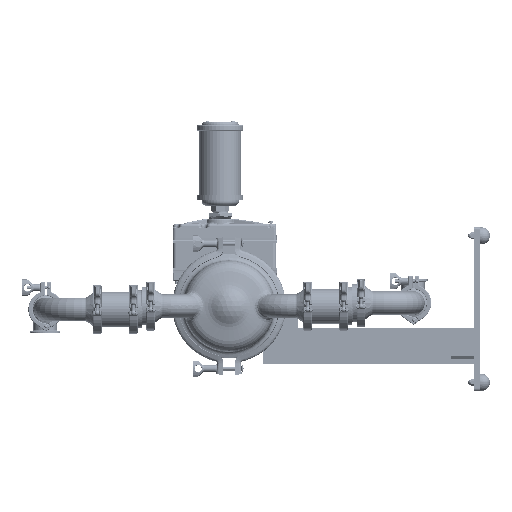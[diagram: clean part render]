
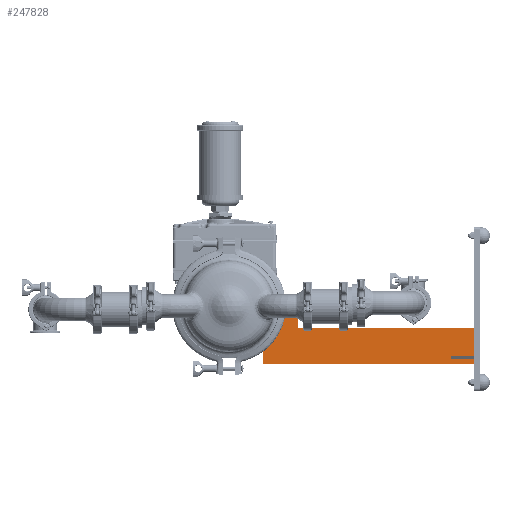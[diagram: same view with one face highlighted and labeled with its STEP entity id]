
A CAD part, left-side view. The second image highlights one B-rep face of the part: STEP entity #247828.
In plain terms, the highlighted planar face has unit normal (-1, 0, 0).
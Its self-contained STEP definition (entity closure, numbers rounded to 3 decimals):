
#9053 = CARTESIAN_POINT ( 'NONE',  ( -1., -20.882, -4.288 ) ) ;
#10409 = ORIENTED_EDGE ( 'NONE', *, *, #404965, .F. ) ;
#12327 = VECTOR ( 'NONE', #19130, 39.37 ) ;
#18326 = VERTEX_POINT ( 'NONE', #602863 ) ;
#19130 = DIRECTION ( 'NONE',  ( 0., 1., 0. ) ) ;
#22271 = VECTOR ( 'NONE', #542634, 39.37 ) ;
#22428 = CARTESIAN_POINT ( 'NONE',  ( -1., -4.21, -2.458 ) ) ;
#32283 = ORIENTED_EDGE ( 'NONE', *, *, #483531, .T. ) ;
#33257 = CARTESIAN_POINT ( 'NONE',  ( -1., -4.21, -1.928 ) ) ;
#35316 = CARTESIAN_POINT ( 'NONE',  ( -1., -20.882, -1.898 ) ) ;
#35793 = DIRECTION ( 'NONE',  ( 0., -1., 0. ) ) ;
#37232 = CARTESIAN_POINT ( 'NONE',  ( -1., -2.88, 1.027 ) ) ;
#40219 = LINE ( 'NONE', #243907, #435296 ) ;
#50904 = ORIENTED_EDGE ( 'NONE', *, *, #626756, .T. ) ;
#53101 = VECTOR ( 'NONE', #296977, 39.37 ) ;
#62037 = VERTEX_POINT ( 'NONE', #564912 ) ;
#76822 = CARTESIAN_POINT ( 'NONE',  ( -1., -2.88, 1.027 ) ) ;
#80519 = ORIENTED_EDGE ( 'NONE', *, *, #312871, .T. ) ;
#81845 = VECTOR ( 'NONE', #440585, 39.37 ) ;
#96530 = LINE ( 'NONE', #203315, #53101 ) ;
#100318 = EDGE_CURVE ( 'NONE', #129086, #387854, #507337, .T. ) ;
#104407 = VECTOR ( 'NONE', #35793, 39.37 ) ;
#109233 = LINE ( 'NONE', #9053, #374990 ) ;
#122228 = VERTEX_POINT ( 'NONE', #239715 ) ;
#129086 = VERTEX_POINT ( 'NONE', #455096 ) ;
#142223 = LINE ( 'NONE', #502745, #312269 ) ;
#144198 = FACE_OUTER_BOUND ( 'NONE', #481453, .T. ) ;
#147915 = EDGE_CURVE ( 'NONE', #552705, #378228, #109233, .T. ) ;
#155859 = CARTESIAN_POINT ( 'NONE',  ( -1., -4.16, -1.928 ) ) ;
#157000 = VERTEX_POINT ( 'NONE', #307319 ) ;
#171270 = CARTESIAN_POINT ( 'NONE',  ( -1., -4.16, -1.928 ) ) ;
#175482 = EDGE_CURVE ( 'NONE', #181940, #62037, #639561, .T. ) ;
#180468 = CARTESIAN_POINT ( 'NONE',  ( -1., -5.88, -1.898 ) ) ;
#181940 = VERTEX_POINT ( 'NONE', #621578 ) ;
#186609 = VECTOR ( 'NONE', #190319, 39.37 ) ;
#187699 = DIRECTION ( 'NONE',  ( -1., 0., 0. ) ) ;
#188387 = ORIENTED_EDGE ( 'NONE', *, *, #321898, .F. ) ;
#190319 = DIRECTION ( 'NONE',  ( 0., -1., 0. ) ) ;
#192014 = CARTESIAN_POINT ( 'NONE',  ( -1., -20.882, -4.538 ) ) ;
#198264 = VERTEX_POINT ( 'NONE', #171270 ) ;
#203315 = CARTESIAN_POINT ( 'NONE',  ( -1., -20.882, -4.898 ) ) ;
#213039 = CARTESIAN_POINT ( 'NONE',  ( -1., -4.21, -2.458 ) ) ;
#222202 = ORIENTED_EDGE ( 'NONE', *, *, #552453, .F. ) ;
#223657 = ORIENTED_EDGE ( 'NONE', *, *, #100318, .F. ) ;
#232184 = VECTOR ( 'NONE', #403857, 39.37 ) ;
#233653 = LINE ( 'NONE', #33257, #306635 ) ;
#236944 = LINE ( 'NONE', #76822, #81845 ) ;
#239715 = CARTESIAN_POINT ( 'NONE',  ( -1., -5.88, -1.898 ) ) ;
#243907 = CARTESIAN_POINT ( 'NONE',  ( -1., -18.882, -4.288 ) ) ;
#247817 = VERTEX_POINT ( 'NONE', #448015 ) ;
#247828 = ADVANCED_FACE ( 'NONE', ( #144198 ), #441433, .T. ) ;
#255264 = VECTOR ( 'NONE', #614222, 39.37 ) ;
#262632 = LINE ( 'NONE', #155859, #487699 ) ;
#265865 = ORIENTED_EDGE ( 'NONE', *, *, #175482, .F. ) ;
#278696 = VERTEX_POINT ( 'NONE', #37232 ) ;
#282492 = AXIS2_PLACEMENT_3D ( 'NONE', #548192, #187699, #551468 ) ;
#292906 = LINE ( 'NONE', #483396, #104407 ) ;
#295515 = DIRECTION ( 'NONE',  ( 0., 0., -1. ) ) ;
#296977 = DIRECTION ( 'NONE',  ( 0., 1., 0. ) ) ;
#306635 = VECTOR ( 'NONE', #387234, 39.37 ) ;
#307319 = CARTESIAN_POINT ( 'NONE',  ( -1., -18.882, -4.538 ) ) ;
#309497 = DIRECTION ( 'NONE',  ( 0., -1., 0. ) ) ;
#311345 = EDGE_CURVE ( 'NONE', #378228, #157000, #40219, .T. ) ;
#312269 = VECTOR ( 'NONE', #352488, 39.37 ) ;
#312871 = EDGE_CURVE ( 'NONE', #18326, #457521, #233653, .T. ) ;
#313617 = CARTESIAN_POINT ( 'NONE',  ( -1., -2.88, -4.898 ) ) ;
#321898 = EDGE_CURVE ( 'NONE', #643716, #552705, #338992, .T. ) ;
#338992 = LINE ( 'NONE', #549195, #354192 ) ;
#351431 = EDGE_CURVE ( 'NONE', #457521, #387854, #469947, .T. ) ;
#352488 = DIRECTION ( 'NONE',  ( 0., 1., 0. ) ) ;
#354192 = VECTOR ( 'NONE', #295515, 39.37 ) ;
#371316 = EDGE_CURVE ( 'NONE', #62037, #129086, #96530, .T. ) ;
#374990 = VECTOR ( 'NONE', #413059, 39.37 ) ;
#378228 = VERTEX_POINT ( 'NONE', #619008 ) ;
#387234 = DIRECTION ( 'NONE',  ( 0., 0., -1. ) ) ;
#387854 = VERTEX_POINT ( 'NONE', #648876 ) ;
#403857 = DIRECTION ( 'NONE',  ( 0., 0., 1. ) ) ;
#404965 = EDGE_CURVE ( 'NONE', #488910, #278696, #654433, .T. ) ;
#413059 = DIRECTION ( 'NONE',  ( 0., 1., 0. ) ) ;
#415622 = VECTOR ( 'NONE', #597337, 39.37 ) ;
#417375 = ORIENTED_EDGE ( 'NONE', *, *, #371316, .F. ) ;
#435296 = VECTOR ( 'NONE', #554308, 39.37 ) ;
#440585 = DIRECTION ( 'NONE',  ( 0., -1., 0. ) ) ;
#441433 = PLANE ( 'NONE',  #282492 ) ;
#447600 = ORIENTED_EDGE ( 'NONE', *, *, #450319, .F. ) ;
#448015 = CARTESIAN_POINT ( 'NONE',  ( -1., -5.88, 1.027 ) ) ;
#450319 = EDGE_CURVE ( 'NONE', #122228, #643716, #647723, .T. ) ;
#455096 = CARTESIAN_POINT ( 'NONE',  ( -1., -2.88, -4.898 ) ) ;
#457521 = VERTEX_POINT ( 'NONE', #213039 ) ;
#469947 = LINE ( 'NONE', #22428, #12327 ) ;
#471649 = ORIENTED_EDGE ( 'NONE', *, *, #637348, .T. ) ;
#481453 = EDGE_LOOP ( 'NONE', ( #265865, #530437, #634916, #588269, #188387, #447600, #32283, #222202, #10409, #471649, #50904, #80519, #483190, #223657, #417375 ) ) ;
#483190 = ORIENTED_EDGE ( 'NONE', *, *, #351431, .T. ) ;
#483396 = CARTESIAN_POINT ( 'NONE',  ( -1., -2.88, -1.928 ) ) ;
#483531 = EDGE_CURVE ( 'NONE', #122228, #247817, #650728, .T. ) ;
#487699 = VECTOR ( 'NONE', #309497, 39.37 ) ;
#488910 = VERTEX_POINT ( 'NONE', #625705 ) ;
#502745 = CARTESIAN_POINT ( 'NONE',  ( -1., -20.882, -4.538 ) ) ;
#507337 = LINE ( 'NONE', #313617, #232184 ) ;
#514034 = CARTESIAN_POINT ( 'NONE',  ( -1., -2.88, -1.928 ) ) ;
#530437 = ORIENTED_EDGE ( 'NONE', *, *, #605694, .T. ) ;
#542634 = DIRECTION ( 'NONE',  ( 0., 0., -1. ) ) ;
#548192 = CARTESIAN_POINT ( 'NONE',  ( -1., -5.88, -1.898 ) ) ;
#549195 = CARTESIAN_POINT ( 'NONE',  ( -1., -20.882, -1.898 ) ) ;
#551468 = DIRECTION ( 'NONE',  ( 0., 0., 1. ) ) ;
#552453 = EDGE_CURVE ( 'NONE', #278696, #247817, #236944, .T. ) ;
#552705 = VERTEX_POINT ( 'NONE', #563796 ) ;
#554308 = DIRECTION ( 'NONE',  ( 0., 0., -1. ) ) ;
#563796 = CARTESIAN_POINT ( 'NONE',  ( -1., -20.882, -4.288 ) ) ;
#564912 = CARTESIAN_POINT ( 'NONE',  ( -1., -20.882, -4.898 ) ) ;
#588269 = ORIENTED_EDGE ( 'NONE', *, *, #147915, .F. ) ;
#597337 = DIRECTION ( 'NONE',  ( 0., 0., 1. ) ) ;
#600611 = CARTESIAN_POINT ( 'NONE',  ( -1., -5.88, -1.898 ) ) ;
#602863 = CARTESIAN_POINT ( 'NONE',  ( -1., -4.21, -1.928 ) ) ;
#605694 = EDGE_CURVE ( 'NONE', #181940, #157000, #142223, .T. ) ;
#614222 = DIRECTION ( 'NONE',  ( 0., 0., 1. ) ) ;
#619008 = CARTESIAN_POINT ( 'NONE',  ( -1., -18.882, -4.288 ) ) ;
#621578 = CARTESIAN_POINT ( 'NONE',  ( -1., -20.882, -4.538 ) ) ;
#625705 = CARTESIAN_POINT ( 'NONE',  ( -1., -2.88, -1.928 ) ) ;
#626756 = EDGE_CURVE ( 'NONE', #198264, #18326, #262632, .T. ) ;
#634916 = ORIENTED_EDGE ( 'NONE', *, *, #311345, .F. ) ;
#637348 = EDGE_CURVE ( 'NONE', #488910, #198264, #292906, .T. ) ;
#639561 = LINE ( 'NONE', #192014, #22271 ) ;
#643716 = VERTEX_POINT ( 'NONE', #35316 ) ;
#647723 = LINE ( 'NONE', #180468, #186609 ) ;
#648876 = CARTESIAN_POINT ( 'NONE',  ( -1., -2.88, -2.458 ) ) ;
#650728 = LINE ( 'NONE', #600611, #415622 ) ;
#654433 = LINE ( 'NONE', #514034, #255264 ) ;
